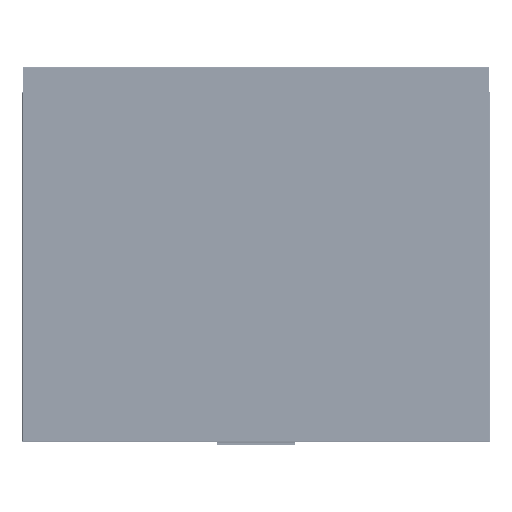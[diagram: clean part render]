
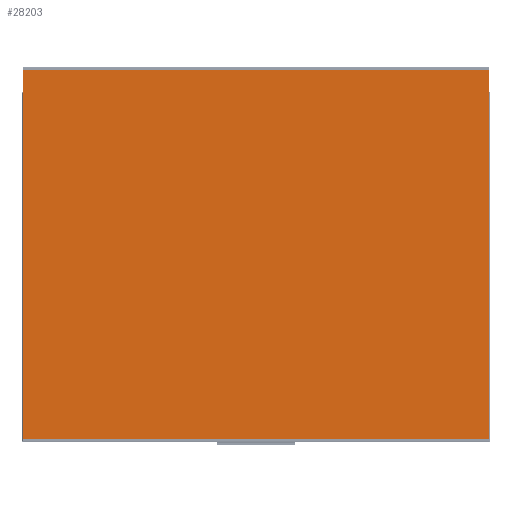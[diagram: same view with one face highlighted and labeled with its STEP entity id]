
A CAD part, front view. The second image highlights one B-rep face of the part: STEP entity #28203.
In plain terms, the highlighted planar face has unit normal (0, -1, 0).
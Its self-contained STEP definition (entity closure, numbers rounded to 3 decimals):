
#1516 = VECTOR ( 'NONE', #49622, 1000. ) ;
#2714 = EDGE_LOOP ( 'NONE', ( #33129, #12140, #43421, #34854 ) ) ;
#4067 = EDGE_CURVE ( 'NONE', #4941, #17132, #66089, .T. ) ;
#4941 = VERTEX_POINT ( 'NONE', #43803 ) ;
#9274 = DIRECTION ( 'NONE',  ( 0., -1., 0. ) ) ;
#11412 = DIRECTION ( 'NONE',  ( 1., 0., 0. ) ) ;
#12140 = ORIENTED_EDGE ( 'NONE', *, *, #4067, .T. ) ;
#12458 = DIRECTION ( 'NONE',  ( -1., 0., 0. ) ) ;
#17132 = VERTEX_POINT ( 'NONE', #30957 ) ;
#21376 = CARTESIAN_POINT ( 'NONE',  ( -598.5, -4., -479.5 ) ) ;
#21715 = VECTOR ( 'NONE', #11412, 1000. ) ;
#24885 = EDGE_CURVE ( 'NONE', #32547, #65540, #56097, .T. ) ;
#25636 = EDGE_CURVE ( 'NONE', #65540, #4941, #52273, .T. ) ;
#28203 = ADVANCED_FACE ( 'NONE', ( #68926 ), #41939, .T. ) ;
#28250 = VECTOR ( 'NONE', #64354, 1000. ) ;
#30957 = CARTESIAN_POINT ( 'NONE',  ( 598.5, -4., -479.5 ) ) ;
#32547 = VERTEX_POINT ( 'NONE', #62991 ) ;
#33129 = ORIENTED_EDGE ( 'NONE', *, *, #25636, .T. ) ;
#34854 = ORIENTED_EDGE ( 'NONE', *, *, #24885, .T. ) ;
#35904 = DIRECTION ( 'NONE',  ( 0., 0., -1. ) ) ;
#38561 = VECTOR ( 'NONE', #12458, 1000. ) ;
#39443 = EDGE_CURVE ( 'NONE', #17132, #32547, #47416, .T. ) ;
#41939 = PLANE ( 'NONE',  #61516 ) ;
#43421 = ORIENTED_EDGE ( 'NONE', *, *, #39443, .T. ) ;
#43803 = CARTESIAN_POINT ( 'NONE',  ( -598.5, -4., -479.5 ) ) ;
#47416 = LINE ( 'NONE', #48128, #1516 ) ;
#48015 = CARTESIAN_POINT ( 'NONE',  ( -598.5, -4., 479.5 ) ) ;
#48128 = CARTESIAN_POINT ( 'NONE',  ( 598.5, -4., -479.5 ) ) ;
#49622 = DIRECTION ( 'NONE',  ( 0., 0., 1. ) ) ;
#52273 = LINE ( 'NONE', #48015, #28250 ) ;
#54679 = CARTESIAN_POINT ( 'NONE',  ( 598.5, -4., 479.5 ) ) ;
#56097 = LINE ( 'NONE', #54679, #38561 ) ;
#61516 = AXIS2_PLACEMENT_3D ( 'NONE', #67548, #9274, #35904 ) ;
#62991 = CARTESIAN_POINT ( 'NONE',  ( 598.5, -4., 479.5 ) ) ;
#64354 = DIRECTION ( 'NONE',  ( 0., 0., -1. ) ) ;
#65540 = VERTEX_POINT ( 'NONE', #67328 ) ;
#66089 = LINE ( 'NONE', #21376, #21715 ) ;
#67328 = CARTESIAN_POINT ( 'NONE',  ( -598.5, -4., 479.5 ) ) ;
#67548 = CARTESIAN_POINT ( 'NONE',  ( 0., -4., 0. ) ) ;
#68926 = FACE_OUTER_BOUND ( 'NONE', #2714, .T. ) ;
